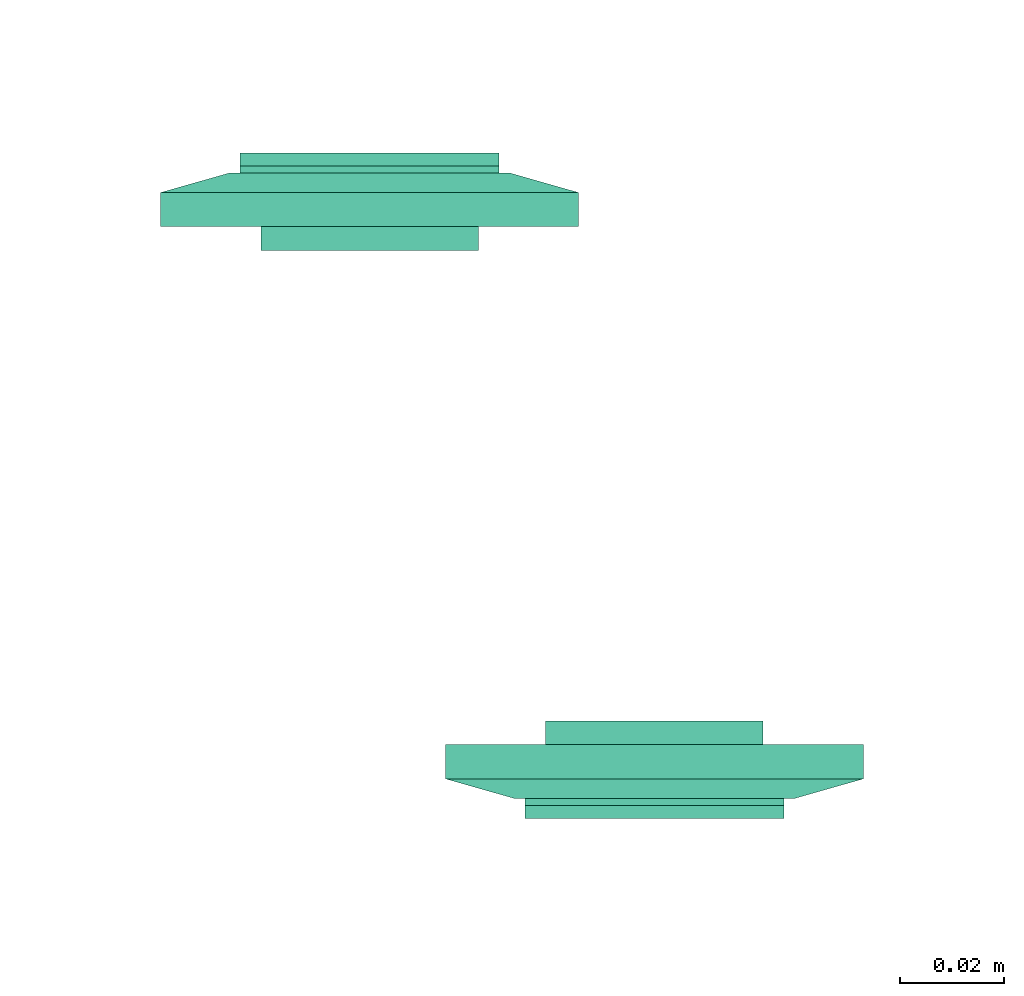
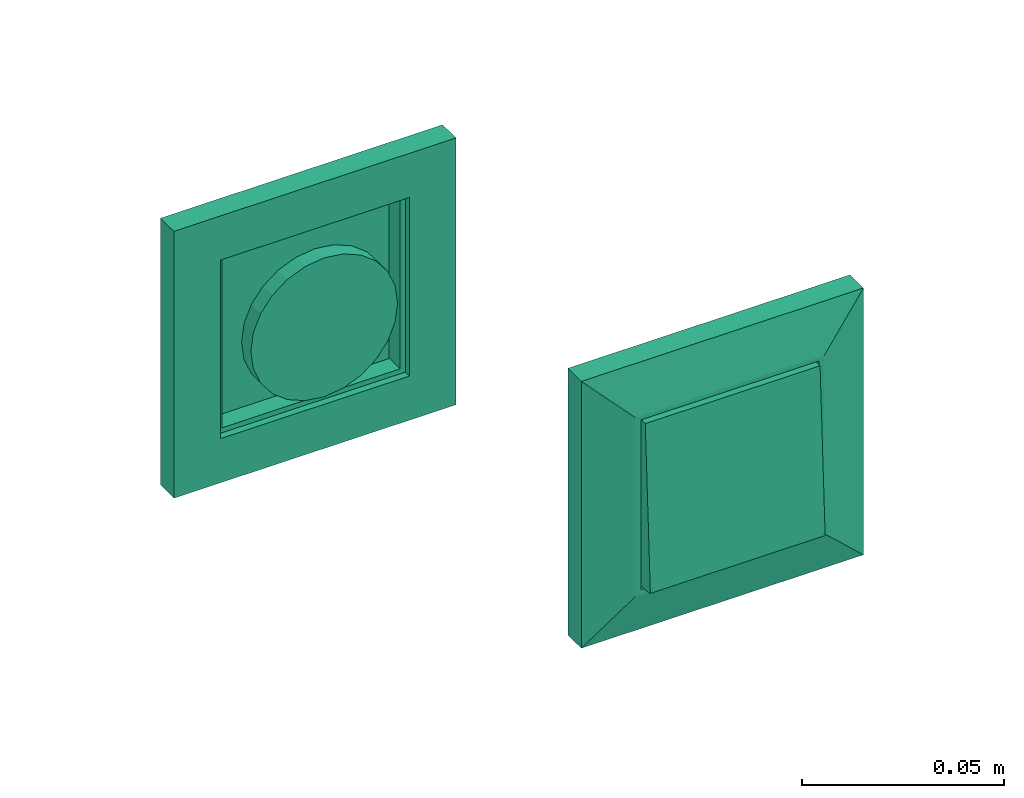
# One storey, part 45 of 153: 2 flow terminals.
"""IFC2X3 building model written with IfcOpenShell, lengths in metres."""

from ifc_helpers import new_model, entity, si_unit, converted_unit, derived_unit, direction, frame, origin, place, context, subcontext, project, spatial, faceted_brep, source, transform, mapped, type_object, type_shapes, element, save


model = new_model("IFC2X3")

# Units and contexts
model_context = context("Model", 3, precision=1e-05, world=origin(), true_north=direction((6.12303176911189e-17, 1.0)))
body_context = subcontext(model_context, "Body", "Model", "MODEL_VIEW")
ifc_project = project(units=[si_unit("LENGTHUNIT", "METRE"), si_unit("AREAUNIT", "SQUARE_METRE"), si_unit("VOLUMEUNIT", "CUBIC_METRE"), converted_unit("PLANEANGLEUNIT", "DEGREE", entity("IfcRatioMeasure", 0.0174532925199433), si_unit("PLANEANGLEUNIT", "RADIAN"), dimensions=[0, 0, 0, 0, 0, 0, 0]), si_unit("MASSUNIT", "GRAM", prefix="KILO"), derived_unit("MASSDENSITYUNIT", [(si_unit("MASSUNIT", "GRAM", prefix="KILO"), 1), (si_unit("LENGTHUNIT", "METRE"), -3)]), si_unit("TIMEUNIT", "SECOND"), si_unit("FREQUENCYUNIT", "HERTZ"), si_unit("THERMODYNAMICTEMPERATUREUNIT", "DEGREE_CELSIUS"), derived_unit("THERMALTRANSMITTANCEUNIT", [(si_unit("MASSUNIT", "GRAM", prefix="KILO"), 1), (si_unit("THERMODYNAMICTEMPERATUREUNIT", "KELVIN"), -1), (si_unit("TIMEUNIT", "SECOND"), -3)]), derived_unit("VOLUMETRICFLOWRATEUNIT", [(si_unit("LENGTHUNIT", "METRE"), 3), (si_unit("TIMEUNIT", "SECOND"), -1)]), si_unit("ELECTRICCURRENTUNIT", "AMPERE"), si_unit("ELECTRICVOLTAGEUNIT", "VOLT"), si_unit("POWERUNIT", "WATT"), si_unit("FORCEUNIT", "NEWTON"), si_unit("ILLUMINANCEUNIT", "LUX"), si_unit("LUMINOUSFLUXUNIT", "LUMEN"), si_unit("LUMINOUSINTENSITYUNIT", "CANDELA"), derived_unit("USERDEFINED", [(si_unit("MASSUNIT", "GRAM", prefix="KILO"), -1), (si_unit("LENGTHUNIT", "METRE"), -2), (si_unit("TIMEUNIT", "SECOND"), 3), (si_unit("LUMINOUSFLUXUNIT", "LUMEN"), 1)]), derived_unit("LINEARVELOCITYUNIT", [(si_unit("LENGTHUNIT", "METRE"), 1), (si_unit("TIMEUNIT", "SECOND"), -1)]), si_unit("PRESSUREUNIT", "PASCAL"), derived_unit("USERDEFINED", [(si_unit("LENGTHUNIT", "METRE"), -2), (si_unit("MASSUNIT", "GRAM", prefix="KILO"), 1), (si_unit("TIMEUNIT", "SECOND"), -2)])], contexts=[model_context])

# Site, building, storey
site_placement = place(None, origin())
site = spatial("IfcSite", under=ifc_project, at=site_placement, Name="Default", CompositionType="ELEMENT")
building_placement = place(site_placement, origin())
building = spatial("IfcBuilding", under=site, at=building_placement, CompositionType="ELEMENT")
storey_placement = place(building_placement, frame((0.0, 0.0, -4.62)))
storey = spatial("IfcBuildingStorey", under=building, at=storey_placement, Name="S02", CompositionType="ELEMENT", Elevation=-4.62)

# Flow terminals
light_fixture_type = type_object("IfcLightFixtureType", Name="SA IP44", PredefinedType="NOTDEFINED")
shared_shape = source(origin(), body_context, "Body", "Brep", [
    faceted_brep([(0.0, 0.0209999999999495, -0.00460000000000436), (0.00543519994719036, 0.02028444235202, -0.00460000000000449), (0.0105000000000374, 0.0181865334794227, -0.00460000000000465), (0.0148492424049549, 0.014849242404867, -0.00460000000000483), (0.0181865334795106, 0.0104999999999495, -0.00460000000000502), (0.0202844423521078, 0.00543519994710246, -0.00460000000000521), (0.0210000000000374, 0.0, -0.00460000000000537), (0.0202844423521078, -0.00543519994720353, -0.00460000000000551), (0.0181865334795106, -0.0105000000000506, -0.0046000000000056), (0.0148492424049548, -0.0148492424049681, -0.00460000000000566), (0.0105000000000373, -0.0181865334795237, -0.00460000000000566), (0.00543519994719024, -0.0202844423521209, -0.00460000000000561), (0.0, -0.0210000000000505, -0.00460000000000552), (-0.00543519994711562, -0.0202844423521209, -0.00460000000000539), (-0.0104999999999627, -0.0181865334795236, -0.00460000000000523), (-0.0148492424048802, -0.0148492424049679, -0.00460000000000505), (-0.0181865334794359, -0.0105000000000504, -0.00460000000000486), (-0.0202844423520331, -0.00543519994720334, -0.00460000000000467), (-0.0209999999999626, 0.0, -0.00460000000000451), (-0.020284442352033, 0.00543519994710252, -0.00460000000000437), (-0.0181865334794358, 0.0104999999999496, -0.00460000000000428), (-0.0148492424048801, 0.0148492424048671, -0.00460000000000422), (-0.0104999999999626, 0.0181865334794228, -0.00460000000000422), (-0.00543519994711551, 0.02028444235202, -0.00460000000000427), (-0.020284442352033, -0.00543519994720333, 0.0), (-0.0209999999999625, 0.0, 0.0), (-0.0181865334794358, -0.0105000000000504, 0.0), (-0.0104999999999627, -0.0181865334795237, 0.0), (-0.0148492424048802, -0.0148492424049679, 0.0), (-0.00543519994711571, -0.020284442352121, 0.0), (0.0, -0.0210000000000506, 0.0), (0.00543519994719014, -0.0202844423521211, 0.0), (0.0105000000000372, -0.018186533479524, 0.0), (0.0181865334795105, -0.0105000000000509, 0.0), (0.0148492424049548, -0.0148492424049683, 0.0), (0.0202844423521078, -0.00543519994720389, 0.0), (0.0210000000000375, 0.0, 0.0), (0.0202844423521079, 0.00543519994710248, 0.0), (0.0181865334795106, 0.0104999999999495, 0.0), (0.0105000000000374, 0.0181865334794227, 0.0), (0.0148492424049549, 0.014849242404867, 0.0), (0.00543519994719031, 0.0202844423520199, 0.0), (0.0, 0.0209999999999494, 0.0), (-0.00543519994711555, 0.0202844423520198, 0.0), (-0.0104999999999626, 0.0181865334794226, 0.0), (-0.0181865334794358, 0.0104999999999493, 0.0), (-0.0148492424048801, 0.0148492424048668, 0.0), (-0.020284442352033, 0.00543519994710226, 0.0)], [[[0, 1, 2, 3, 4, 5, 6, 7, 8, 9, 10, 11, 12, 13, 14, 15, 16, 17, 18, 19, 20, 21, 22, 23]], [[17, 24, 25, 18]], [[16, 26, 24, 17]], [[27, 28, 15, 14]], [[16, 15, 28, 26]], [[29, 27, 14, 13]], [[30, 29, 13, 12]], [[11, 31, 30, 12]], [[10, 32, 31, 11]], [[33, 34, 9, 8]], [[10, 9, 34, 32]], [[35, 33, 8, 7]], [[36, 35, 7, 6]], [[5, 37, 36, 6]], [[4, 38, 37, 5]], [[39, 40, 3, 2]], [[4, 3, 40, 38]], [[41, 39, 2, 1]], [[42, 41, 1, 0]], [[23, 43, 42, 0]], [[22, 44, 43, 23]], [[45, 46, 21, 20]], [[22, 21, 46, 44]], [[47, 45, 20, 19]], [[25, 47, 19, 18]], [[25, 24, 26, 28, 27, 29, 30, 31, 32, 34, 33, 35, 36, 37, 38, 40, 39, 41, 42, 43, 44, 46, 45, 47]]]),
    faceted_brep([(0.0270000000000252, 0.026999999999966, 0.0103999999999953), (-0.0269999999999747, 0.026999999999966, 0.0103999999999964), (-0.0269999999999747, -0.0270000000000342, 0.0103999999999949), (0.0270000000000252, -0.0270000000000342, 0.0103999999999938), (-0.0254999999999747, 0.0258096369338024, 0.0103999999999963), (0.0255000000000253, 0.0258096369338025, 0.0103999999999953), (0.0255000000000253, -0.0255000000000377, 0.0103999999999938), (-0.0254999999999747, -0.0255000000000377, 0.0103999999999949), (0.0270000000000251, 0.0269999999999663, 0.00199999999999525), (0.0270000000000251, -0.0270000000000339, 0.00199999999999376), (-0.0269999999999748, -0.0270000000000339, 0.00199999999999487), (-0.0269999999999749, 0.0269999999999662, 0.00199999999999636), (0.0255000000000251, 0.0258096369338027, 0.00199999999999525), (-0.0254999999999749, 0.0258096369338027, 0.0019999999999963), (-0.0254999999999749, -0.0255000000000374, 0.00199999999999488), (0.0255000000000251, -0.0255000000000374, 0.00199999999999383)], [[[0, 1, 2, 3], [4, 5, 6, 7]], [[8, 9, 10, 11], [12, 13, 14, 15]], [[1, 0, 8, 11]], [[2, 1, 11, 10]], [[3, 2, 10, 9]], [[0, 3, 9, 8]], [[12, 5, 4, 13]], [[13, 4, 7, 14]], [[14, 7, 6, 15]], [[5, 12, 15, 6]]]),
    faceted_brep([(0.0250000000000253, 0.0253096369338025, 0.00659999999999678), (0.0250000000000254, 0.0253096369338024, 0.0117095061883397), (0.0250000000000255, -0.0245000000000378, 0.0142232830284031), (0.0250000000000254, -0.0250000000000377, 0.0117095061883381), (0.0250000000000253, -0.0250000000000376, 0.00659999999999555), (-0.0249999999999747, 0.0253096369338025, 0.00659999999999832), (-0.0249999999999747, -0.0250000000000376, 0.00659999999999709), (-0.0249999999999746, -0.0250000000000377, 0.0117095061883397), (-0.0249999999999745, -0.0245000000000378, 0.0142232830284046), (-0.0249999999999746, 0.0253096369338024, 0.0117095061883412)], [[[0, 1, 2, 3, 4]], [[5, 6, 7, 8, 9]], [[1, 0, 5, 9]], [[2, 1, 9, 8]], [[3, 2, 8, 7]], [[4, 3, 7, 6]], [[0, 4, 6, 5]]]),
    faceted_brep([(0.027000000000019, 0.0269999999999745, 0.00659999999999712), (-0.0269999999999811, 0.0269999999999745, 0.00659999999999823), (-0.026999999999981, -0.0270000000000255, 0.00659999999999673), (0.027000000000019, -0.0270000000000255, 0.00659999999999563), (0.040350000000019, 0.0403499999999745, 0.00659999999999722), (0.040350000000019, -0.0403500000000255, 0.00659999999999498), (-0.0403499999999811, -0.0403500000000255, 0.00659999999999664), (-0.0403499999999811, 0.0403499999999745, 0.00659999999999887), (-0.026999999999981, 0.0269999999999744, 0.0103999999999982), (0.027000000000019, 0.0269999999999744, 0.0103999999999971), (-0.026999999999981, -0.0270000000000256, 0.0103999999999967), (0.027000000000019, -0.0270000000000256, 0.0103999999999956)], [[[0, 1, 2, 3], [4, 5, 6, 7]], [[4, 7, 8, 9]], [[7, 6, 10, 8]], [[6, 5, 11, 10]], [[5, 4, 9, 11]], [[0, 9, 8, 1]], [[1, 8, 10, 2]], [[2, 10, 11, 3]], [[9, 0, 3, 11]]], outer=[[False, True], [True], [True], [True], [True], [True], [True], [True], [True]]),
    faceted_brep([(0.040350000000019, 0.0403499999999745, 0.00659999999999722), (-0.0403499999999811, 0.0403499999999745, 0.00659999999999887), (-0.0403499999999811, -0.0403500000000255, 0.00659999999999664), (0.040350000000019, -0.0403500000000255, 0.00659999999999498), (-0.0269999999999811, 0.0269999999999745, 0.00659999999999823), (0.0270000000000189, 0.0269999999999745, 0.00659999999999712), (0.0270000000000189, -0.0270000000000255, 0.00659999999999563), (-0.0269999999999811, -0.0270000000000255, 0.00659999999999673), (0.0403500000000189, 0.0403499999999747, 0.0), (0.0403500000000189, -0.0403500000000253, 0.0), (-0.0403499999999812, -0.0403500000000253, 0.0), (-0.0403499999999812, 0.0403499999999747, 0.0), (0.0270000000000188, 0.0269999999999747, 0.0), (-0.0269999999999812, 0.0269999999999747, 0.0), (-0.0269999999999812, -0.0270000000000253, 0.0), (0.0270000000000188, -0.0270000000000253, 0.0)], [[[0, 1, 2, 3], [4, 5, 6, 7]], [[8, 9, 10, 11], [12, 13, 14, 15]], [[1, 0, 8, 11]], [[2, 1, 11, 10]], [[3, 2, 10, 9]], [[0, 3, 9, 8]], [[12, 5, 4, 13]], [[13, 4, 7, 14]], [[14, 7, 6, 15]], [[5, 12, 15, 6]]]),
])
type_shapes(light_fixture_type, [shared_shape])
for number, where, z_axis, x_axis in (
    (1, (40.7497436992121, -191.249651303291, 1.05000000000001), (0.0, -1.0, 0.0), (1.0, 0.0, 0.0)),
    (2, (40.6947436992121, -191.149651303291, 1.05000000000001), (0.0, 1.0, 0.0), (-1.0, 0.0, 0.0)),
):
    element("IfcFlowTerminal", number, at=place(storey_placement, frame(where, z_axis=z_axis, x_axis=x_axis)), inside=storey, type_object=light_fixture_type, Name="INT_Inter SA:SA IP44", ObjectType="INT_Inter SA:SA IP44", context=body_context, shape_type="MappedRepresentation", body=[
        mapped(shared_shape, transform((0.0, 0.0, 0.0), scale=1.0)),
    ])

save(model, "model.ifc")
